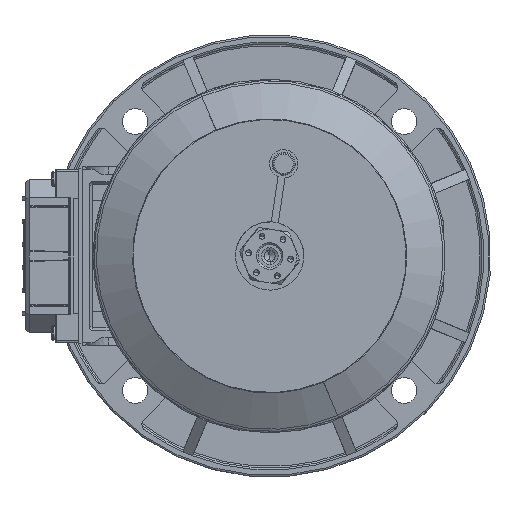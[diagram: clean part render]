
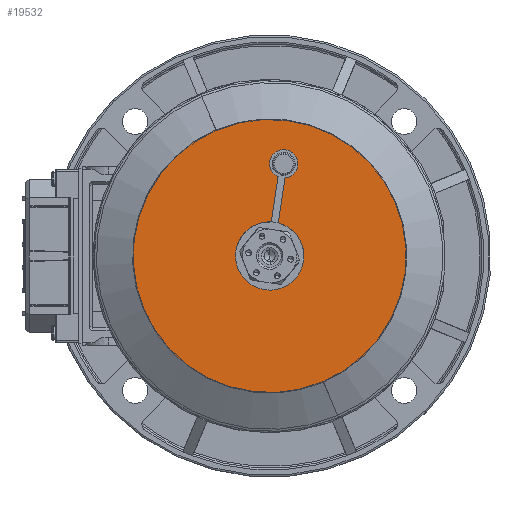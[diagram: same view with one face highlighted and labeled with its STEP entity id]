
A CAD part, left-side view. The second image highlights one B-rep face of the part: STEP entity #19532.
In plain terms, the highlighted planar face has unit normal (-1, 0, 0) as drawn and (0, -1, 0) by its records, which use the part's own axes.
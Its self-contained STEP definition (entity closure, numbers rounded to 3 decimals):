
#3387 = AXIS2_PLACEMENT_3D ( 'NONE', #91954, #11307, #67873 ) ;
#8932 = CARTESIAN_POINT ( 'NONE',  ( 0., 0., 0. ) ) ;
#11307 = DIRECTION ( 'NONE',  ( 0., -1., 0. ) ) ;
#17077 = DIRECTION ( 'NONE',  ( 0., 0., 1. ) ) ;
#19532 = ADVANCED_FACE ( 'NONE', ( #66442, #25938 ), #35325, .T. ) ;
#20214 = CARTESIAN_POINT ( 'NONE',  ( 0., 0., 0. ) ) ;
#21166 = CARTESIAN_POINT ( 'NONE',  ( 0., 0., 77.5 ) ) ;
#23454 = AXIS2_PLACEMENT_3D ( 'NONE', #80656, #32238, #88806 ) ;
#25789 = CARTESIAN_POINT ( 'NONE',  ( 0., 0., 0. ) ) ;
#25938 = FACE_OUTER_BOUND ( 'NONE', #56304, .T. ) ;
#26301 = CIRCLE ( 'NONE', #70487, 77.5 ) ;
#28335 = DIRECTION ( 'NONE',  ( 0., 0., 1. ) ) ;
#29059 = CARTESIAN_POINT ( 'NONE',  ( 0., 0., 13.5 ) ) ;
#30417 = ORIENTED_EDGE ( 'NONE', *, *, #46546, .F. ) ;
#32238 = DIRECTION ( 'NONE',  ( 0., 1., 0. ) ) ;
#33887 = DIRECTION ( 'NONE',  ( 0., 0., 1. ) ) ;
#34533 = VERTEX_POINT ( 'NONE', #97903 ) ;
#35325 = PLANE ( 'NONE',  #3387 ) ;
#35837 = CIRCLE ( 'NONE', #70695, 13.5 ) ;
#44046 = ORIENTED_EDGE ( 'NONE', *, *, #95745, .T. ) ;
#44226 = VERTEX_POINT ( 'NONE', #72579 ) ;
#46546 = EDGE_CURVE ( 'NONE', #96100, #34533, #26301, .T. ) ;
#47820 = ORIENTED_EDGE ( 'NONE', *, *, #92805, .T. ) ;
#56304 = EDGE_LOOP ( 'NONE', ( #30417, #56739 ) ) ;
#56739 = ORIENTED_EDGE ( 'NONE', *, *, #56864, .F. ) ;
#56864 = EDGE_CURVE ( 'NONE', #34533, #96100, #99809, .T. ) ;
#63108 = VERTEX_POINT ( 'NONE', #29059 ) ;
#65524 = DIRECTION ( 'NONE',  ( 0., 1., 0. ) ) ;
#66442 = FACE_BOUND ( 'NONE', #78038, .T. ) ;
#67873 = DIRECTION ( 'NONE',  ( 0., 0., -1. ) ) ;
#70487 = AXIS2_PLACEMENT_3D ( 'NONE', #20214, #76797, #28335 ) ;
#70695 = AXIS2_PLACEMENT_3D ( 'NONE', #25789, #82366, #33887 ) ;
#72579 = CARTESIAN_POINT ( 'NONE',  ( 0., 0., -13.5 ) ) ;
#76797 = DIRECTION ( 'NONE',  ( 0., 1., 0. ) ) ;
#78038 = EDGE_LOOP ( 'NONE', ( #44046, #47820 ) ) ;
#80656 = CARTESIAN_POINT ( 'NONE',  ( 0., 0., 0. ) ) ;
#82366 = DIRECTION ( 'NONE',  ( 0., 1., 0. ) ) ;
#88806 = DIRECTION ( 'NONE',  ( 0., 0., 1. ) ) ;
#91954 = CARTESIAN_POINT ( 'NONE',  ( -13.5, 0., 0. ) ) ;
#92805 = EDGE_CURVE ( 'NONE', #44226, #63108, #35837, .T. ) ;
#95745 = EDGE_CURVE ( 'NONE', #63108, #44226, #99977, .T. ) ;
#96100 = VERTEX_POINT ( 'NONE', #21166 ) ;
#97903 = CARTESIAN_POINT ( 'NONE',  ( 0., 0., -77.5 ) ) ;
#99809 = CIRCLE ( 'NONE', #104521, 77.5 ) ;
#99977 = CIRCLE ( 'NONE', #23454, 13.5 ) ;
#104521 = AXIS2_PLACEMENT_3D ( 'NONE', #8932, #65524, #17077 ) ;
